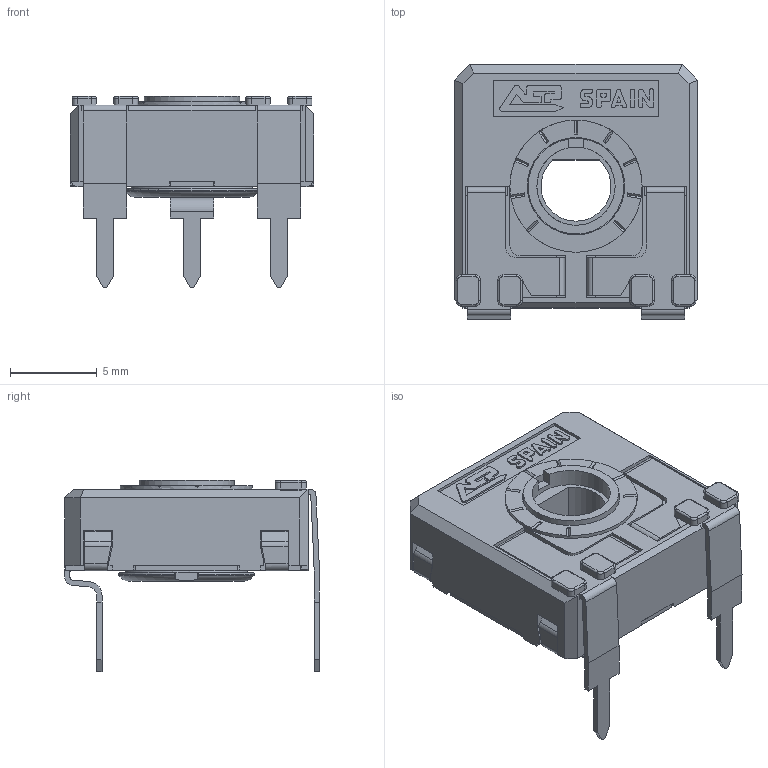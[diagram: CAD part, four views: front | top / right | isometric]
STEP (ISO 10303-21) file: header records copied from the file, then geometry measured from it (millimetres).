
FILE_DESCRIPTION(/* description */ (''),/* implementation_level */ '2;1');
FILE_NAME(/* name */ '\\SERVERACP\intercambio\Ignacio Santa Cecilia\Nueva WEB 2025\CA14 - CE14\CA14FV12,5 RT-RO.stp',/* time_stamp */ '2025-06-12T09:52:18+02:00',/* author */ ('CEM'),/* organization */ (''),/* preprocessor_version */ 'ST-DEVELOPER v17',/* originating_system */ 'Autodesk Inventor 2018',/* authorisation */ '');
FILE_SCHEMA (('AUTOMOTIVE_DESIGN { 1 0 10303 214 3 1 1 }'));
Length unit declared in the file: millimetre
Products named in the file (1): CA14FV12,5 RT-RO
Bounding box: 14 x 14.65 x 11 mm (x, y, z)
Volume: 534.3 mm3; surface area: 1493 mm2
Topology: 1 solids, 1 shells, 680 faces, 1926 edges, 1242 vertices
Faces by surface type: plane 501, cylinder 142, torus 23, bspline 8, cone 6
Full cylindrical faces by diameter (mm): 4.5 x1, 5.5 x1, 5.6 x1, 5.752 x1, 6.8 x1, 7.6 x1
Entity records: 22266 total; most frequent: CARTESIAN_POINT 4146, ORIENTED_EDGE 3852, DIRECTION 3597, EDGE_CURVE 1926, LINE 1511, VECTOR 1511, VERTEX_POINT 1242, AXIS2_PLACEMENT_3D 1043
